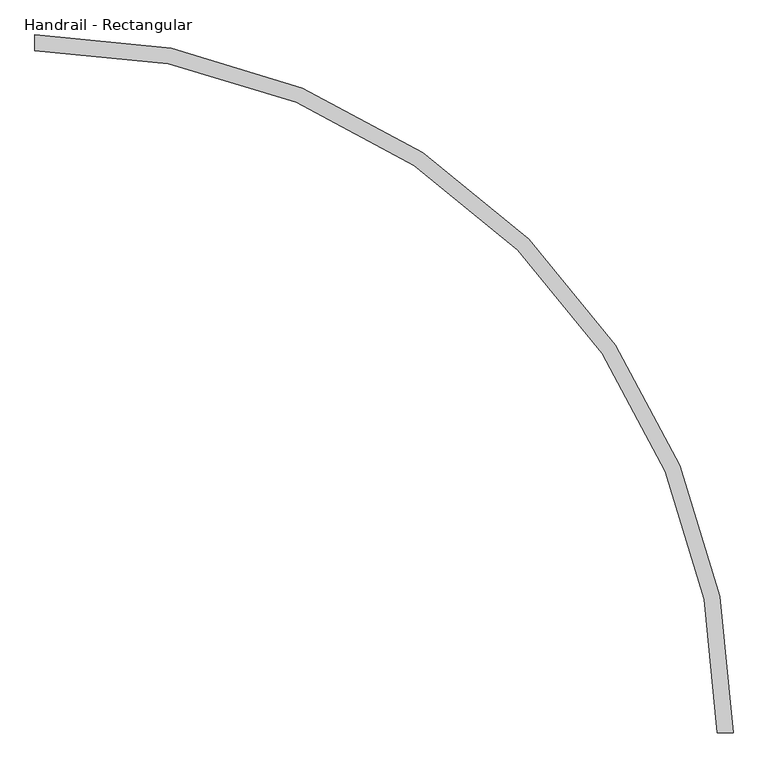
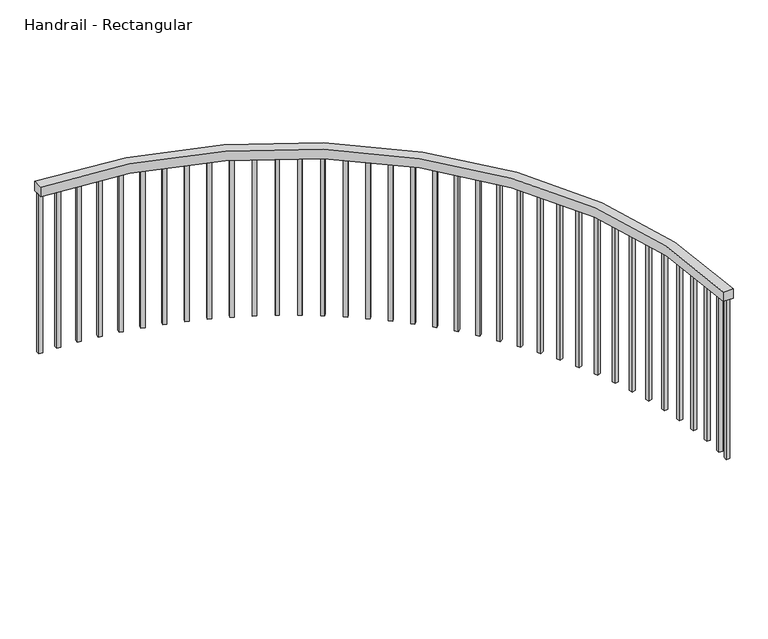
"""IFC4 building model written with IfcOpenShell, lengths in millimetres: railing geometry, Handrail - Rectangular."""

from ifc_helpers import new_model, si_unit, point, frame, frame_2d, origin, place, context, project, spatial, polyline, circle_curve, trimmed, segment, composite_curve, outline, extrude, source, transform, mapped, element, save


def handrail_rectangular_57d3ad48(model_context):
    return source(origin(), model_context, "Body", "SweptSolid", [
        extrude(outline(composite_curve([segment(trimmed(circle_curve(frame_2d((93258.9951063, 8179.6903292)), 2220.8427219), [point((95479.8378283, 8179.6903292))], [point((93258.9951063, 10400.5330511))], True, "CARTESIAN"), True, "CONTINUOUS"), segment(polyline([(93258.9951063, 10400.5330511), (93258.9951063, 10451.3330511)]), True, "CONTINUOUS"), segment(trimmed(circle_curve(frame_2d((93258.9951063, 8179.6903292)), 2271.6427219), [point((93258.9951063, 10451.3330511))], [point((95530.6378283, 8179.6903292))], False, "CARTESIAN"), True, "CONTINUOUS"), segment(polyline([(95530.6378283, 8179.6903292), (95479.8378283, 8179.6903292)]), True, "CONTINUOUS")], self_intersect=False)), frame((0.0, 0.0, 4216.4), z_axis=(0.0, 0.0, 1.0), x_axis=(1.0, 0.0, 0.0)), (0.0, 0.0, 1.0), 50.8),
        extrude(outline(polyline([(95494.1858256, 8262.8729092), (95513.2254919, 8263.5002907), (95513.8528734, 8244.4606244), (95494.8132071, 8243.8332429), (95494.1858256, 8262.8729092)])), frame((0.0, 0.0, 3352.8), z_axis=(0.0, 0.0, 1.0), x_axis=(1.0, 0.0, 0.0)), (0.0, 0.0, 1.0), 863.6),
        extrude(outline(polyline([(95488.1386258, 8363.8534709), (95507.1304518, 8365.3411019), (95508.6180828, 8346.3492759), (95489.6262569, 8344.8616449), (95488.1386258, 8363.8534709)])), frame((0.0, 0.0, 3352.8), z_axis=(0.0, 0.0, 1.0), x_axis=(1.0, 0.0, 0.0)), (0.0, 0.0, 1.0), 863.6),
        extrude(outline(polyline([(95477.5317075, 8464.4573264), (95496.4368453, 8466.8021641), (95498.7816829, 8447.8970262), (95479.8765451, 8445.5521886), (95477.5317075, 8464.4573264)])), frame((0.0, 0.0, 3352.8), z_axis=(0.0, 0.0, 1.0), x_axis=(1.0, 0.0, 0.0)), (0.0, 0.0, 1.0), 863.6),
        extrude(outline(polyline([(95462.386767, 8564.4786904), (95481.1665462, 8567.6759382), (95484.363794, 8548.896159), (95465.5840148, 8545.6989112), (95462.386767, 8564.4786904)])), frame((0.0, 0.0, 3352.8), z_axis=(0.0, 0.0, 1.0), x_axis=(1.0, 0.0, 0.0)), (0.0, 0.0, 1.0), 863.6),
        extrude(outline(polyline([(95442.7347835, 8663.7129688), (95461.3507899, 8667.7560869), (95465.393908, 8649.1400804), (95446.7779015, 8645.0969624), (95442.7347835, 8663.7129688)])), frame((0.0, 0.0, 3352.8), z_axis=(0.0, 0.0, 1.0), x_axis=(1.0, 0.0, 0.0)), (0.0, 0.0, 1.0), 863.6),
        extrude(outline(polyline([(95418.6159551, 8761.9571777), (95437.0301097, 8766.8378958), (95441.9108278, 8748.4237412), (95423.4966732, 8743.5430231), (95418.6159551, 8761.9571777)])), frame((0.0, 0.0, 3352.8), z_axis=(0.0, 0.0, 1.0), x_axis=(1.0, 0.0, 0.0)), (0.0, 0.0, 1.0), 863.6),
        extrude(outline(polyline([(95390.0796169, 8859.0103584), (95408.2542535, 8864.718693), (95413.9625881, 8846.5440564), (95395.7879515, 8840.8357218), (95390.0796169, 8859.0103584)])), frame((0.0, 0.0, 3352.8), z_axis=(0.0, 0.0, 1.0), x_axis=(1.0, 0.0, 0.0)), (0.0, 0.0, 1.0), 863.6),
        extrude(outline(polyline([(95357.1841401, 8954.6739882), (95375.0820824, 8961.1982629), (95381.6063571, 8943.3003206), (95363.7084148, 8936.7760459), (95357.1841401, 8954.6739882)])), frame((0.0, 0.0, 3352.8), z_axis=(0.0, 0.0, 1.0), x_axis=(1.0, 0.0, 0.0)), (0.0, 0.0, 1.0), 863.6),
        extrude(outline(polyline([(95319.9968125, 9048.7523871), (95337.5814502, 9056.0792565), (95344.9083196, 9038.4946187), (95327.3236818, 9031.1677493), (95319.9968125, 9048.7523871)])), frame((0.0, 0.0, 3352.8), z_axis=(0.0, 0.0, 1.0), x_axis=(1.0, 0.0, 0.0)), (0.0, 0.0, 1.0), 863.6),
        extrude(outline(polyline([(95278.5937008, 9141.0531174), (95295.8290646, 9149.1675943), (95303.9435415, 9131.9322305), (95286.7081777, 9123.8177536), (95278.5937008, 9141.0531174)])), frame((0.0, 0.0, 3352.8), z_axis=(0.0, 0.0, 1.0), x_axis=(1.0, 0.0, 0.0)), (0.0, 0.0, 1.0), 863.6),
        extrude(outline(polyline([(95233.0594952, 9231.3873777), (95249.91033, 9240.272864), (95258.7958163, 9223.4220292), (95241.9449814, 9214.5365429), (95233.0594952, 9231.3873777)])), frame((0.0, 0.0, 3352.8), z_axis=(0.0, 0.0, 1.0), x_axis=(1.0, 0.0, 0.0)), (0.0, 0.0, 1.0), 863.6),
        extrude(outline(polyline([(95183.487336, 9319.5703892), (95199.9191734, 9329.2087095), (95209.5574938, 9312.7768721), (95193.1256563, 9303.1385517), (95183.487336, 9319.5703892)])), frame((0.0, 0.0, 3352.8), z_axis=(0.0, 0.0, 1.0), x_axis=(1.0, 0.0, 0.0)), (0.0, 0.0, 1.0), 863.6),
        extrude(outline(polyline([(95129.9786232, 9405.4217731), (95145.9578519, 9415.7932123), (95156.3292911, 9399.8139837), (95140.3500624, 9389.4425445), (95129.9786232, 9405.4217731)])), frame((0.0, 0.0, 3352.8), z_axis=(0.0, 0.0, 1.0), x_axis=(1.0, 0.0, 0.0)), (0.0, 0.0, 1.0), 863.6),
        extrude(outline(polyline([(95072.6428091, 9488.7659204), (95088.1367435, 9499.8492637), (95099.2200867, 9484.3553293), (95083.7261523, 9473.271986), (95072.6428091, 9488.7659204)])), frame((0.0, 0.0, 3352.8), z_axis=(0.0, 0.0, 1.0), x_axis=(1.0, 0.0, 0.0)), (0.0, 0.0, 1.0), 863.6),
        extrude(outline(polyline([(95011.5971741, 9569.4323503), (95026.5741213, 9581.2049267), (95038.3466976, 9566.2279795), (95023.3697504, 9554.4554032), (95011.5971741, 9569.4323503)])), frame((0.0, 0.0, 3352.8), z_axis=(0.0, 0.0, 1.0), x_axis=(1.0, 0.0, 0.0)), (0.0, 0.0, 1.0), 863.6),
        extrude(outline(polyline([(94946.9665872, 9647.2560595), (94961.3959118, 9659.6937881), (94973.8336404, 9645.2644635), (94959.4043158, 9632.8267349), (94946.9665872, 9647.2560595)])), frame((0.0, 0.0, 3352.8), z_axis=(0.0, 0.0, 1.0), x_axis=(1.0, 0.0, 0.0)), (0.0, 0.0, 1.0), 863.6),
        extrude(outline(polyline([(94878.8832506, 9722.0778594), (94892.7354374, 9735.1552988), (94905.8128767, 9721.303112), (94891.9606899, 9708.2256726), (94878.8832506, 9722.0778594)])), frame((0.0, 0.0, 3352.8), z_axis=(0.0, 0.0, 1.0), x_axis=(1.0, 0.0, 0.0)), (0.0, 0.0, 1.0), 863.6),
        extrude(outline(polyline([(94807.4864287, 9793.7447018), (94820.7331431, 9807.4351021), (94834.4235433, 9794.1883877), (94821.1768289, 9780.4979875), (94807.4864287, 9793.7447018)])), frame((0.0, 0.0, 3352.8), z_axis=(0.0, 0.0, 1.0), x_axis=(1.0, 0.0, 0.0)), (0.0, 0.0, 1.0), 863.6),
        extrude(outline(polyline([(94732.922164, 9862.109992), (94745.5363097, 9876.3853494), (94759.8116671, 9863.7712037), (94747.1975214, 9849.4958463), (94732.922164, 9862.109992)])), frame((0.0, 0.0, 3352.8), z_axis=(0.0, 0.0, 1.0), x_axis=(1.0, 0.0, 0.0)), (0.0, 0.0, 1.0), 863.6),
        extrude(outline(polyline([(94655.3429779, 9927.0338886), (94667.2987527, 9941.8650029), (94682.1298669, 9929.9092281), (94670.1740922, 9915.0781139), (94655.3429779, 9927.0338886)])), frame((0.0, 0.0, 3352.8), z_axis=(0.0, 0.0, 1.0), x_axis=(1.0, 0.0, 0.0)), (0.0, 0.0, 1.0), 863.6),
        extrude(outline(polyline([(94574.9075588, 9988.3835897), (94586.1805071, 10003.7401237), (94601.5370411, 9992.4671754), (94590.2640928, 9977.1106414), (94574.9075588, 9988.3835897)])), frame((0.0, 0.0, 3352.8), z_axis=(0.0, 0.0, 1.0), x_axis=(1.0, 0.0, 0.0)), (0.0, 0.0, 1.0), 863.6),
        extrude(outline(polyline([(94491.7804375, 10046.0336043), (94502.3475005, 10061.8841462), (94518.1980424, 10051.3170833), (94507.6309795, 10035.4665413), (94491.7804375, 10046.0336043)])), frame((0.0, 0.0, 3352.8), z_axis=(0.0, 0.0, 1.0), x_axis=(1.0, 0.0, 0.0)), (0.0, 0.0, 1.0), 863.6),
        extrude(outline(polyline([(94406.1316508, 10099.8660091), (94415.9712135, 10116.1781367), (94432.2833411, 10106.338574), (94422.4437784, 10090.0264464), (94406.1316508, 10099.8660091)])), frame((0.0, 0.0, 3352.8), z_axis=(0.0, 0.0, 1.0), x_axis=(1.0, 0.0, 0.0)), (0.0, 0.0, 1.0), 863.6),
        extrude(outline(polyline([(94318.1363935, 10149.7706898), (94327.228329, 10166.5110365), (94343.9686757, 10157.419101), (94334.8767402, 10140.6787542), (94318.1363935, 10149.7706898)])), frame((0.0, 0.0, 3352.8), z_axis=(0.0, 0.0, 1.0), x_axis=(1.0, 0.0, 0.0)), (0.0, 0.0, 1.0), 863.6),
        extrude(outline(polyline([(94227.97466, 10195.6455662), (94236.3003708, 10212.7798897), (94253.4346943, 10204.4541789), (94245.1089835, 10187.3198554), (94227.97466, 10195.6455662)])), frame((0.0, 0.0, 3352.8), z_axis=(0.0, 0.0, 1.0), x_axis=(1.0, 0.0, 0.0)), (0.0, 0.0, 1.0), 863.6),
        extrude(outline(polyline([(94135.8308765, 10237.3968013), (94143.3733323, 10254.8900531), (94160.8665842, 10247.3475973), (94153.3241283, 10229.8543455), (94135.8308765, 10237.3968013)])), frame((0.0, 0.0, 3352.8), z_axis=(0.0, 0.0, 1.0), x_axis=(1.0, 0.0, 0.0)), (0.0, 0.0, 1.0), 863.6),
        extrude(outline(polyline([(94041.8935233, 10274.9389927), (94048.637296, 10292.7553905), (94066.4536938, 10286.0116177), (94059.709921, 10268.19522), (94041.8935233, 10274.9389927)])), frame((0.0, 0.0, 3352.8), z_axis=(0.0, 0.0, 1.0), x_axis=(1.0, 0.0, 0.0)), (0.0, 0.0, 1.0), 863.6),
        extrude(outline(polyline([(93946.3547494, 10308.1953478), (93952.2860446, 10326.298448), (93970.3891448, 10320.3671528), (93964.4578496, 10302.2640526), (93946.3547494, 10308.1953478)])), frame((0.0, 0.0, 3352.8), z_axis=(0.0, 0.0, 1.0), x_axis=(1.0, 0.0, 0.0)), (0.0, 0.0, 1.0), 863.6),
        extrude(outline(polyline([(93849.4099796, 10337.0978407), (93854.5166649, 10355.4506134), (93872.8694376, 10350.3439281), (93867.7627523, 10331.9911554), (93849.4099796, 10337.0978407)])), frame((0.0, 0.0, 3352.8), z_axis=(0.0, 0.0, 1.0), x_axis=(1.0, 0.0, 0.0)), (0.0, 0.0, 1.0), 863.6),
        extrude(outline(polyline([(93751.2575148, 10361.5873511), (93755.5291444, 10380.1522557), (93774.094049, 10375.8806261), (93769.8224194, 10357.3157216), (93751.2575148, 10361.5873511)])), frame((0.0, 0.0, 3352.8), z_axis=(0.0, 0.0, 1.0), x_axis=(1.0, 0.0, 0.0)), (0.0, 0.0, 1.0), 863.6),
        extrude(outline(polyline([(93652.0981261, 10381.6137859), (93655.5259623, 10400.3528477), (93674.2650242, 10396.9250115), (93670.8371879, 10378.1859496), (93652.0981261, 10381.6137859)])), frame((0.0, 0.0, 3352.8), z_axis=(0.0, 0.0, 1.0), x_axis=(1.0, 0.0, 0.0)), (0.0, 0.0, 1.0), 863.6),
        extrude(outline(polyline([(93552.1346441, 10397.1361808), (93554.7116754, 10416.0110691), (93573.5865637, 10413.4340378), (93571.0095324, 10394.5591495), (93552.1346441, 10397.1361808)])), frame((0.0, 0.0, 3352.8), z_axis=(0.0, 0.0, 1.0), x_axis=(1.0, 0.0, 0.0)), (0.0, 0.0, 1.0), 863.6),
        extrude(outline(polyline([(93451.5715445, 10408.1227847), (93453.2924994, 10427.0948909), (93472.2646057, 10425.3739359), (93470.5436507, 10406.4018297), (93451.5715445, 10408.1227847)])), frame((0.0, 0.0, 3352.8), z_axis=(0.0, 0.0, 1.0), x_axis=(1.0, 0.0, 0.0)), (0.0, 0.0, 1.0), 863.6),
        extrude(outline(polyline([(93350.6145293, 10414.5511245), (93351.4758877, 10433.5816411), (93370.5064043, 10432.7202827), (93369.6450459, 10413.6897661), (93350.6145293, 10414.5511245)])), frame((0.0, 0.0, 3352.8), z_axis=(0.0, 0.0, 1.0), x_axis=(1.0, 0.0, 0.0)), (0.0, 0.0, 1.0), 863.6),
        extrude(outline(polyline([(95495.6523291, 8198.6998252), (95514.7021579, 8198.7806048), (95514.7829375, 8179.7307761), (95495.7331088, 8179.6499965), (95495.6523291, 8198.6998252)])), frame((0.0, 0.0, 3352.8), z_axis=(0.0, 0.0, 1.0), x_axis=(1.0, 0.0, 0.0)), (0.0, 0.0, 1.0), 863.6),
        extrude(outline(polyline([(93258.9547736, 10416.4283316), (93259.0355533, 10435.4781604), (93278.085382, 10435.3973807), (93278.0046023, 10416.347552), (93258.9547736, 10416.4283316)])), frame((0.0, 0.0, 3352.8), z_axis=(0.0, 0.0, 1.0), x_axis=(1.0, 0.0, 0.0)), (0.0, 0.0, 1.0), 863.6),
    ])


if __name__ == "__main__":
    model = new_model("IFC4")
    model_context = context("Model", 3, world=origin())
    ifc_project = project(units=[si_unit("LENGTHUNIT", "METRE", prefix="MILLI")], contexts=[model_context])
    site = spatial("IfcSite", under=ifc_project)
    building = spatial("IfcBuilding", under=site)
    placement = place(None, origin())
    handrail_rectangular_shape = handrail_rectangular_57d3ad48(model_context)
    element("IfcRailing", 1, ObjectType="Handrail - Rectangular", at=placement, inside=building, context=model_context, shape_type="MappedRepresentation", body=[
        mapped(handrail_rectangular_shape, transform((0.0, 0.0, 0.0), x_axis=(1.0, 0.0, 0.0), y_axis=(0.0, 1.0, 0.0), z_axis=(0.0, 0.0, 1.0))),
    ])
    save(model, "model.ifc")
